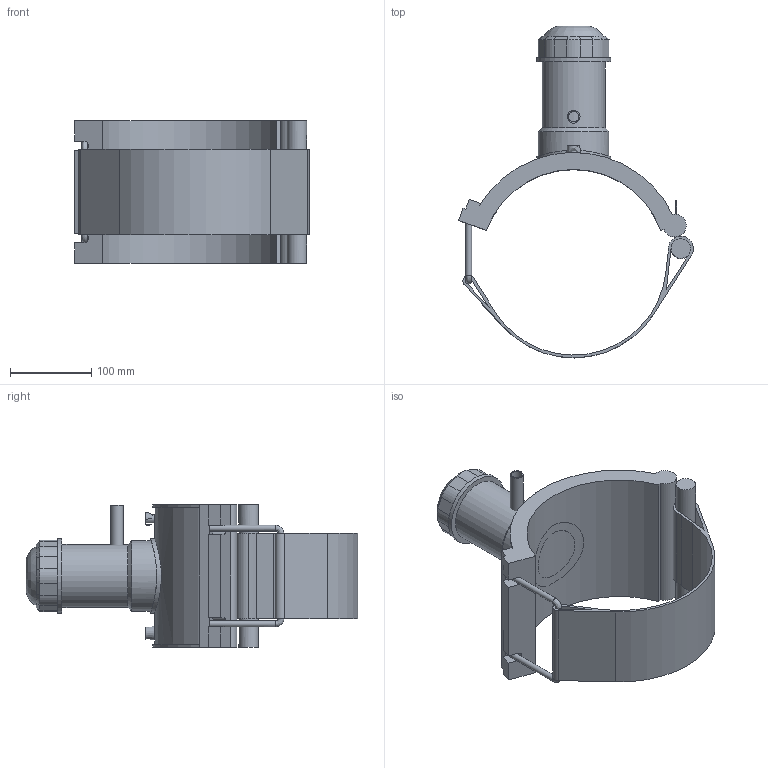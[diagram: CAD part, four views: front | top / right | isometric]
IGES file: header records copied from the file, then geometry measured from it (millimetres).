
Global section: file name: 5963DUP3080005.ipt; native system: Autodesk Inventor 2019; preprocessor: unknown; author: KIM; date: 20210830.101720; units: inch
Bounding box: 289.75 x 409.37 x 176.02 mm (x, y, z)
Volume: 1974282.3 mm3; surface area: 370583.9 mm2
Topology: 4 solids, 4 shells, 125 faces, 305 edges, 196 vertices
Faces by surface type: plane 69, cylinder 30, revolution 13, cone 13
Full cylindrical faces by diameter (mm): 4 x2, 7.325 x2, 15.8 x1, 24.123 x1, 77.826 x1, 86.982 x1, 91.56 x2
